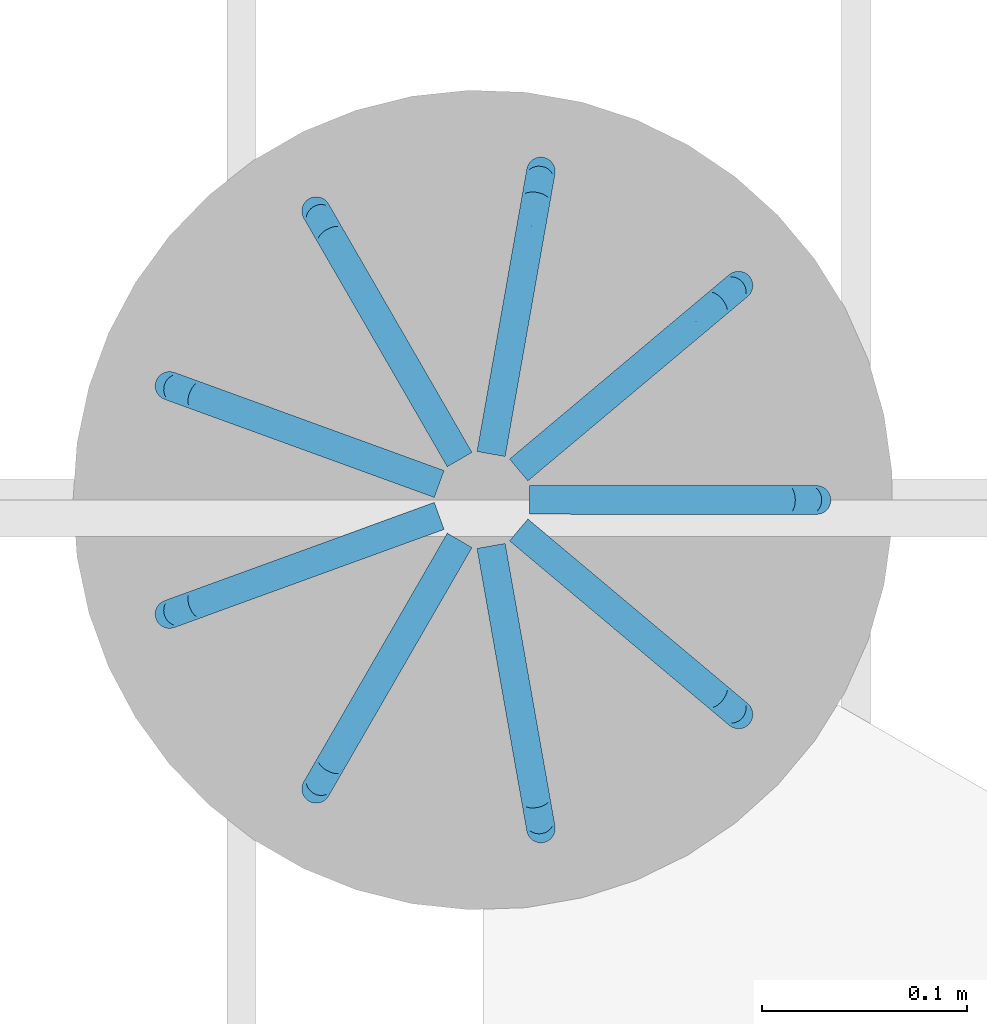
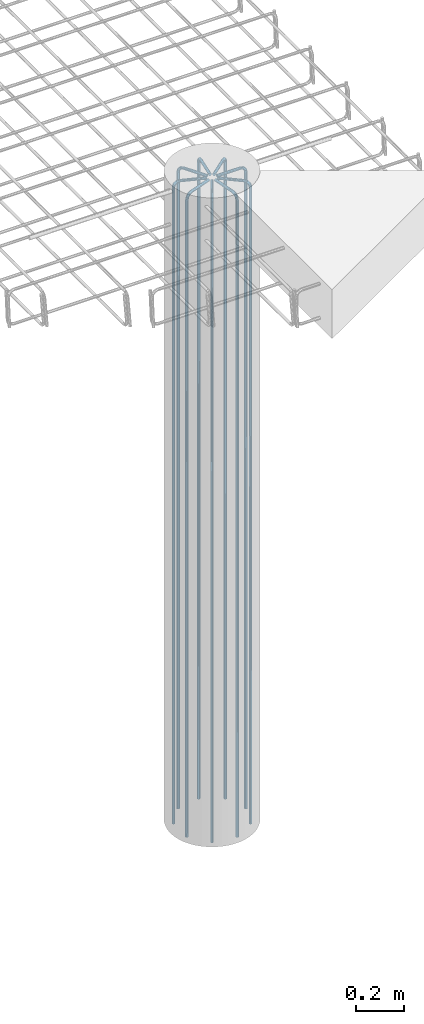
# One storey, part 20 of 24: 1 reinforcing bar.
"""IFC2X3 building model written with IfcOpenShell, lengths in metres."""

from ifc_helpers import new_model, entity, si_unit, direction, frame, origin, place, context, subcontext, project, spatial, shape, source, transform, mapped, element, save


model = new_model("IFC2X3")

# Units and contexts
model_context = context("Model", 3, precision=0.0, world=origin(), true_north=direction((0.0, 1.0)))
plan_context = context("Plan", 3, precision=0.0, world=origin(), true_north=direction((0.0, 1.0)))
body_context = subcontext(model_context, "Body", "Model", "MODEL_VIEW", scale=1.0)
ifc_project = project(units=[si_unit("LENGTHUNIT", "METRE"), si_unit("AREAUNIT", "SQUARE_METRE"), si_unit("VOLUMEUNIT", "CUBIC_METRE"), si_unit("PLANEANGLEUNIT", "RADIAN"), si_unit("THERMODYNAMICTEMPERATUREUNIT", "DEGREE_CELSIUS"), si_unit("FORCEUNIT", "NEWTON"), si_unit("MASSUNIT", "GRAM", prefix="KILO")], contexts=[model_context, plan_context])

# Site, building, storey
placement = place(None, origin())
site = spatial("IfcSite", under=ifc_project, at=placement, Name="Default Site", CompositionType="ELEMENT")
building = spatial("IfcBuilding", under=site, at=placement, Name="Default Building", CompositionType="ELEMENT")
storey_placement = place(placement, frame((0.0, 0.0, 3.3), z_axis=(1.0, 0.0, 0.0), x_axis=(0.0, 0.0, 1.0)))
storey = spatial("IfcBuildingStorey", under=building, at=storey_placement, Name="Piano 2", CompositionType="ELEMENT", Elevation=3.3)

# Reinforcing bar
shared_shape_1 = source(origin(), body_context, None, "AdvancedSweptSolid", [
    entity("IfcSweptDiskSolid", entity("IfcCompositeCurve", [entity("IfcCompositeCurveSegment", "CONTINUOUS", True, entity("IfcPolyline", [entity("IfcCartesianPoint", [0.0, 0.0, 0.0]), entity("IfcCartesianPoint", [0.0, 0.0, 3.237]), entity("IfcCartesianPoint", [-0.003751, 0.0, 3.251]), entity("IfcCartesianPoint", [-0.014, 0.0, 3.261249]), entity("IfcCartesianPoint", [-0.028, 0.0, 3.265]), entity("IfcCartesianPoint", [-0.14, 0.0, 3.265])]))], False), 0.007, 0.0, 0.0),
])
shared_shape_2 = source(origin(), body_context, None, "MappedRepresentation", [mapped(shared_shape_1, transform((26.492754, 0.5, 0.0)))])
shared_shape_3 = source(origin(), body_context, None, "AdvancedSweptSolid", [
    entity("IfcSweptDiskSolid", entity("IfcCompositeCurve", [entity("IfcCompositeCurveSegment", "CONTINUOUS", True, entity("IfcPolyline", [entity("IfcCartesianPoint", [0.0, 0.0, 0.0]), entity("IfcCartesianPoint", [0.0, 0.0, 3.237]), entity("IfcCartesianPoint", [-0.002874, -0.002411, 3.251]), entity("IfcCartesianPoint", [-0.010725, -0.008999, 3.261249]), entity("IfcCartesianPoint", [-0.021449, -0.017998, 3.265]), entity("IfcCartesianPoint", [-0.107246, -0.08999, 3.265])]))], False), 0.007, 0.0, 0.0),
])
shared_shape_4 = source(origin(), body_context, None, "MappedRepresentation", [mapped(shared_shape_3, transform((26.454677, 0.604616, 0.0)))])
shared_shape_5 = source(origin(), body_context, None, "AdvancedSweptSolid", [
    entity("IfcSweptDiskSolid", entity("IfcCompositeCurve", [entity("IfcCompositeCurveSegment", "CONTINUOUS", True, entity("IfcPolyline", [entity("IfcCartesianPoint", [0.0, 0.0, 0.0]), entity("IfcCartesianPoint", [0.0, 0.0, 3.237]), entity("IfcCartesianPoint", [-0.000651, -0.003694, 3.251]), entity("IfcCartesianPoint", [-0.002431, -0.013787, 3.261249]), entity("IfcCartesianPoint", [-0.004862, -0.027575, 3.265]), entity("IfcCartesianPoint", [-0.024311, -0.137873, 3.265])]))], False), 0.007, 0.0, 0.0),
])
shared_shape_6 = source(origin(), body_context, None, "MappedRepresentation", [mapped(shared_shape_5, transform((26.358262, 0.660281, 0.0)))])
shared_shape_7 = source(origin(), body_context, None, "AdvancedSweptSolid", [
    entity("IfcSweptDiskSolid", entity("IfcCompositeCurve", [entity("IfcCompositeCurveSegment", "CONTINUOUS", True, entity("IfcPolyline", [entity("IfcCartesianPoint", [0.0, 0.0, 0.0]), entity("IfcCartesianPoint", [0.0, 0.0, 3.237]), entity("IfcCartesianPoint", [0.001876, -0.003249, 3.251]), entity("IfcCartesianPoint", [0.007, -0.012124, 3.261249]), entity("IfcCartesianPoint", [0.014, -0.024249, 3.265]), entity("IfcCartesianPoint", [0.07, -0.121244, 3.265])]))], False), 0.007, 0.0, 0.0),
])
shared_shape_8 = source(origin(), body_context, None, "MappedRepresentation", [mapped(shared_shape_7, transform((26.248623, 0.640949, 0.0)))])
shared_shape_9 = source(origin(), body_context, None, "AdvancedSweptSolid", [
    entity("IfcSweptDiskSolid", entity("IfcCompositeCurve", [entity("IfcCompositeCurveSegment", "CONTINUOUS", True, entity("IfcPolyline", [entity("IfcCartesianPoint", [0.0, 0.0, 0.0]), entity("IfcCartesianPoint", [0.0, 0.0, 3.237]), entity("IfcCartesianPoint", [0.003525, -0.001283, 3.251]), entity("IfcCartesianPoint", [0.013156, -0.004788, 3.261249]), entity("IfcCartesianPoint", [0.026311, -0.009577, 3.265]), entity("IfcCartesianPoint", [0.131557, -0.047883, 3.265])]))], False), 0.007, 0.0, 0.0),
])
shared_shape_10 = source(origin(), body_context, None, "MappedRepresentation", [mapped(shared_shape_9, transform((26.177061, 0.555665, 0.0)))])
shared_shape_11 = source(origin(), body_context, None, "AdvancedSweptSolid", [
    entity("IfcSweptDiskSolid", entity("IfcCompositeCurve", [entity("IfcCompositeCurveSegment", "CONTINUOUS", True, entity("IfcPolyline", [entity("IfcCartesianPoint", [0.0, 0.0, 0.0]), entity("IfcCartesianPoint", [0.0, 0.0, 3.237]), entity("IfcCartesianPoint", [0.003525, 0.001283, 3.251]), entity("IfcCartesianPoint", [0.013156, 0.004788, 3.261249]), entity("IfcCartesianPoint", [0.026311, 0.009577, 3.265]), entity("IfcCartesianPoint", [0.131557, 0.047883, 3.265])]))], False), 0.007, 0.0, 0.0),
])
shared_shape_12 = source(origin(), body_context, None, "MappedRepresentation", [mapped(shared_shape_11, transform((26.177061, 0.444335, 0.0)))])
shared_shape_13 = source(origin(), body_context, None, "AdvancedSweptSolid", [
    entity("IfcSweptDiskSolid", entity("IfcCompositeCurve", [entity("IfcCompositeCurveSegment", "CONTINUOUS", True, entity("IfcPolyline", [entity("IfcCartesianPoint", [0.0, 0.0, 0.0]), entity("IfcCartesianPoint", [0.0, 0.0, 3.237]), entity("IfcCartesianPoint", [0.001876, 0.003249, 3.251]), entity("IfcCartesianPoint", [0.007, 0.012124, 3.261249]), entity("IfcCartesianPoint", [0.014, 0.024249, 3.265]), entity("IfcCartesianPoint", [0.07, 0.121244, 3.265])]))], False), 0.007, 0.0, 0.0),
])
shared_shape_14 = source(origin(), body_context, None, "MappedRepresentation", [mapped(shared_shape_13, transform((26.248623, 0.359051, 0.0)))])
shared_shape_15 = source(origin(), body_context, None, "AdvancedSweptSolid", [
    entity("IfcSweptDiskSolid", entity("IfcCompositeCurve", [entity("IfcCompositeCurveSegment", "CONTINUOUS", True, entity("IfcPolyline", [entity("IfcCartesianPoint", [0.0, 0.0, 0.0]), entity("IfcCartesianPoint", [0.0, 0.0, 3.237]), entity("IfcCartesianPoint", [-0.000651, 0.003694, 3.251]), entity("IfcCartesianPoint", [-0.002431, 0.013787, 3.261249]), entity("IfcCartesianPoint", [-0.004862, 0.027575, 3.265]), entity("IfcCartesianPoint", [-0.024311, 0.137873, 3.265])]))], False), 0.007, 0.0, 0.0),
])
shared_shape_16 = source(origin(), body_context, None, "MappedRepresentation", [mapped(shared_shape_15, transform((26.358262, 0.339719, 0.0)))])
shared_shape_17 = source(origin(), body_context, None, "AdvancedSweptSolid", [
    entity("IfcSweptDiskSolid", entity("IfcCompositeCurve", [entity("IfcCompositeCurveSegment", "CONTINUOUS", True, entity("IfcPolyline", [entity("IfcCartesianPoint", [0.0, 0.0, 0.0]), entity("IfcCartesianPoint", [0.0, 0.0, 3.237]), entity("IfcCartesianPoint", [-0.002874, 0.002411, 3.251]), entity("IfcCartesianPoint", [-0.010725, 0.008999, 3.261249]), entity("IfcCartesianPoint", [-0.021449, 0.017998, 3.265]), entity("IfcCartesianPoint", [-0.107246, 0.08999, 3.265])]))], False), 0.007, 0.0, 0.0),
])
shared_shape_18 = source(origin(), body_context, None, "MappedRepresentation", [mapped(shared_shape_17, transform((26.454677, 0.395384, 0.0)))])
element("IfcReinforcingBar", 1, at=placement, inside=storey, Name="Arm Principale; Pilastro:22 [Piano:2]", BarLength=30.645, BarRole="MAIN", BarSurface="TEXTURED", NominalDiameter=0.014, shapes=[
    shape(body_context, None, "MappedRepresentation", [mapped(shared_shape_2, transform((0.0, 0.0, 0.0))), mapped(shared_shape_4, transform((0.0, 0.0, 0.0))), mapped(shared_shape_6, transform((0.0, 0.0, 0.0))), mapped(shared_shape_8, transform((0.0, 0.0, 0.0))), mapped(shared_shape_10, transform((0.0, 0.0, 0.0))), mapped(shared_shape_12, transform((0.0, 0.0, 0.0))), mapped(shared_shape_14, transform((0.0, 0.0, 0.0))), mapped(shared_shape_16, transform((0.0, 0.0, 0.0))), mapped(shared_shape_18, transform((0.0, 0.0, 0.0)))]),
])

save(model, "model.ifc")
